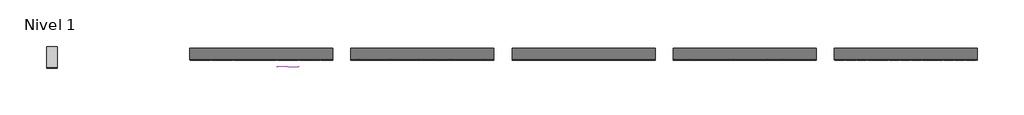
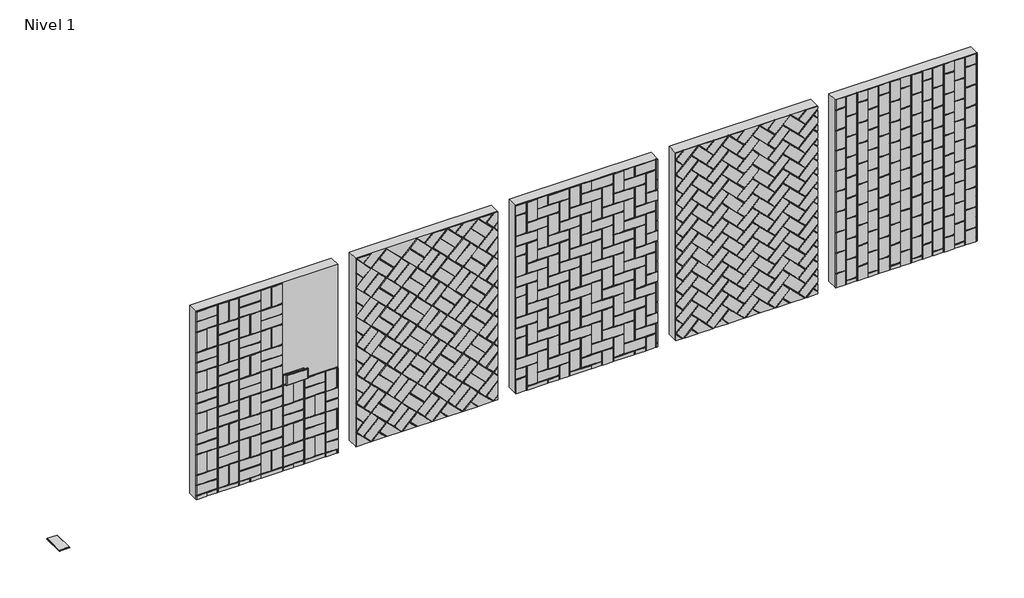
# One storey: 12 proxies.
"""IFC4 building model written with IfcOpenShell, lengths in millimetres."""

from ifc_helpers import new_model, si_unit, origin, place, context, project, spatial, transform, mapped, element, save
from components import generic_models_7bc7f488, generic_models_bae5b023, generic_models_1283f7ee, generic_models_b198d986, generic_models_cc67b6d5, generic_models_0e09693b, generic_models_fd96e6b6, generic_models_fab0b521, generic_models_71bcdb27, generic_models_9d3aa62c, generic_models_5b903db9, generic_models_c7b8c421, generic_models_26ef5471, generic_models_bda26717, proxy_1_3dm_c59fca89, proxy_2_3dm_eb5da68a, proxy_3_3dm_61976232, proxy_4_3dm_06a9302c, proxy_5_3dm_34431002

model = new_model("IFC4")

# Units and contexts
model_context = context("Model", 3, world=origin())
ifc_project = project(units=[si_unit("LENGTHUNIT", "METRE", prefix="MILLI")], contexts=[model_context])

# Site, building, storey
site = spatial("IfcSite", under=ifc_project)
building = spatial("IfcBuilding", under=site)
storey = spatial("IfcBuildingStorey", under=building, Name="Nivel 1", Elevation=0.0)

# Proxies
placement = place(None, origin())
generic_models_shape = generic_models_7bc7f488(model_context)
element("IfcBuildingElementProxy", 1, Name="Wall_Wisteria 1.3dm", ObjectType="Wall_Wisteria 1.3dm", at=placement, inside=storey, context=model_context, shape_type="MappedRepresentation", body=[
    mapped(generic_models_shape, transform((0.0, 0.0, 0.0), x_axis=(1.0, 0.0, 0.0), y_axis=(0.0, 1.0, 0.0), z_axis=(0.0, 0.0, 1.0))),
])
generic_models_2_shape = generic_models_bae5b023(model_context)
element("IfcBuildingElementProxy", 2, Name="Wall_Wisteria 2.3dm", ObjectType="Wall_Wisteria 2.3dm", at=placement, inside=storey, context=model_context, shape_type="MappedRepresentation", body=[
    mapped(generic_models_2_shape, transform((0.0, 0.0, 0.0), x_axis=(1.0, 0.0, 0.0), y_axis=(0.0, 1.0, 0.0), z_axis=(0.0, 0.0, 1.0))),
])
generic_models_3_shape = generic_models_1283f7ee(model_context)
generic_models_4_shape = generic_models_b198d986(model_context)
element("IfcBuildingElementProxy", 3, Name="Wall_Wisteria 3.3dm", ObjectType="Wall_Wisteria 3.3dm", at=placement, inside=storey, context=model_context, shape_type="MappedRepresentation", body=[
    mapped(generic_models_3_shape, transform((0.0, 0.0, 0.0), x_axis=(1.0, 0.0, 0.0), y_axis=(0.0, 1.0, 0.0), z_axis=(0.0, 0.0, 1.0))),
    mapped(generic_models_4_shape, transform((0.0, 0.0, 0.0), x_axis=(1.0, 0.0, 0.0), y_axis=(0.0, 1.0, 0.0), z_axis=(0.0, 0.0, 1.0))),
])
generic_models_5_shape = generic_models_cc67b6d5(model_context)
generic_models_6_shape = generic_models_0e09693b(model_context)
generic_models_7_shape = generic_models_fd96e6b6(model_context)
element("IfcBuildingElementProxy", 4, Name="Wall_Wisteria 4.3dm", ObjectType="Wall_Wisteria 4.3dm", at=placement, inside=storey, context=model_context, shape_type="MappedRepresentation", body=[
    mapped(generic_models_5_shape, transform((0.0, 0.0, 0.0), x_axis=(1.0, 0.0, 0.0), y_axis=(0.0, 1.0, 0.0), z_axis=(0.0, 0.0, 1.0))),
    mapped(generic_models_6_shape, transform((0.0, 0.0, 0.0), x_axis=(1.0, 0.0, 0.0), y_axis=(0.0, 1.0, 0.0), z_axis=(0.0, 0.0, 1.0))),
    mapped(generic_models_7_shape, transform((0.0, 0.0, 0.0), x_axis=(1.0, 0.0, 0.0), y_axis=(0.0, 1.0, 0.0), z_axis=(0.0, 0.0, 1.0))),
])
generic_models_8_shape = generic_models_fab0b521(model_context)
generic_models_9_shape = generic_models_71bcdb27(model_context)
element("IfcBuildingElementProxy", 5, Name="Wall_Wisteria 5.3dm", ObjectType="Wall_Wisteria 5.3dm", at=placement, inside=storey, context=model_context, shape_type="MappedRepresentation", body=[
    mapped(generic_models_8_shape, transform((0.0, 0.0, 0.0), x_axis=(1.0, 0.0, 0.0), y_axis=(0.0, 1.0, 0.0), z_axis=(0.0, 0.0, 1.0))),
    mapped(generic_models_9_shape, transform((0.0, 0.0, 0.0), x_axis=(1.0, 0.0, 0.0), y_axis=(0.0, 1.0, 0.0), z_axis=(0.0, 0.0, 1.0))),
])
generic_models_10_shape = generic_models_9d3aa62c(model_context)
generic_models_11_shape = generic_models_5b903db9(model_context)
generic_models_12_shape = generic_models_c7b8c421(model_context)
element("IfcBuildingElementProxy", 6, Name="Wall_Wisteria 6.3dm", ObjectType="Wall_Wisteria 6.3dm", at=placement, inside=storey, context=model_context, shape_type="MappedRepresentation", body=[
    mapped(generic_models_10_shape, transform((0.0, 0.0, 0.0), x_axis=(1.0, 0.0, 0.0), y_axis=(0.0, 1.0, 0.0), z_axis=(0.0, 0.0, 1.0))),
    mapped(generic_models_11_shape, transform((0.0, 0.0, 0.0), x_axis=(1.0, 0.0, 0.0), y_axis=(0.0, 1.0, 0.0), z_axis=(0.0, 0.0, 1.0))),
    mapped(generic_models_12_shape, transform((0.0, 0.0, 0.0), x_axis=(1.0, 0.0, 0.0), y_axis=(0.0, 1.0, 0.0), z_axis=(0.0, 0.0, 1.0))),
])
generic_models_13_shape = generic_models_26ef5471(model_context)
generic_models_14_shape = generic_models_bda26717(model_context)
element("IfcBuildingElementProxy", 7, Name="Wall_Wisteria 7.3dm", ObjectType="Wall_Wisteria 7.3dm", at=placement, inside=storey, context=model_context, shape_type="MappedRepresentation", body=[
    mapped(generic_models_13_shape, transform((0.0, 0.0, 0.0), x_axis=(1.0, 0.0, 0.0), y_axis=(0.0, 1.0, 0.0), z_axis=(0.0, 0.0, 1.0))),
    mapped(generic_models_14_shape, transform((0.0, 0.0, 0.0), x_axis=(1.0, 0.0, 0.0), y_axis=(0.0, 1.0, 0.0), z_axis=(0.0, 0.0, 1.0))),
])
proxy_1_3dm_shape = proxy_1_3dm_c59fca89(model_context)
element("IfcBuildingElementProxy", 8, Name="1.3dm", ObjectType="1.3dm", at=placement, inside=storey, context=model_context, shape_type="MappedRepresentation", body=[
    mapped(proxy_1_3dm_shape, transform((0.0, 0.0, 0.0), x_axis=(1.0, 0.0, 0.0), y_axis=(0.0, 1.0, 0.0), z_axis=(0.0, 0.0, 1.0))),
])
proxy_2_3dm_shape = proxy_2_3dm_eb5da68a(model_context)
element("IfcBuildingElementProxy", 9, Name="2.3dm", ObjectType="2.3dm", at=placement, inside=storey, context=model_context, shape_type="MappedRepresentation", body=[
    mapped(proxy_2_3dm_shape, transform((0.0, 0.0, 0.0), x_axis=(1.0, 0.0, 0.0), y_axis=(0.0, 1.0, 0.0), z_axis=(0.0, 0.0, 1.0))),
])
proxy_3_3dm_shape = proxy_3_3dm_61976232(model_context)
element("IfcBuildingElementProxy", 10, Name="3.3dm", ObjectType="3.3dm", at=placement, inside=storey, context=model_context, shape_type="MappedRepresentation", body=[
    mapped(proxy_3_3dm_shape, transform((0.0, 0.0, 0.0), x_axis=(1.0, 0.0, 0.0), y_axis=(0.0, 1.0, 0.0), z_axis=(0.0, 0.0, 1.0))),
])
proxy_4_3dm_shape = proxy_4_3dm_06a9302c(model_context)
element("IfcBuildingElementProxy", 11, Name="4.3dm", ObjectType="4.3dm", at=placement, inside=storey, context=model_context, shape_type="MappedRepresentation", body=[
    mapped(proxy_4_3dm_shape, transform((0.0, 0.0, 0.0), x_axis=(1.0, 0.0, 0.0), y_axis=(0.0, 1.0, 0.0), z_axis=(0.0, 0.0, 1.0))),
])
proxy_5_3dm_shape = proxy_5_3dm_34431002(model_context)
element("IfcBuildingElementProxy", 12, Name="5.3dm", ObjectType="5.3dm", at=placement, inside=storey, context=model_context, shape_type="MappedRepresentation", body=[
    mapped(proxy_5_3dm_shape, transform((0.0, 0.0, 0.0), x_axis=(1.0, 0.0, 0.0), y_axis=(0.0, 1.0, 0.0), z_axis=(0.0, 0.0, 1.0))),
])

save(model, "model.ifc")
